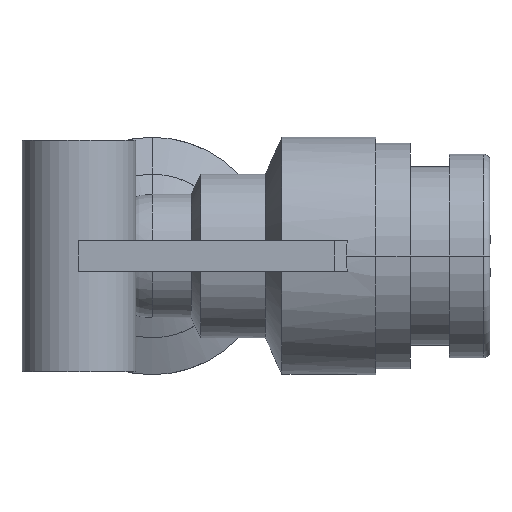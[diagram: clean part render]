
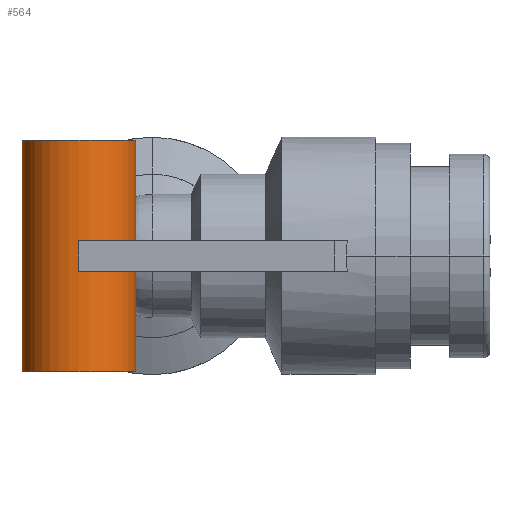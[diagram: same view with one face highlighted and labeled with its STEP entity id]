
A CAD part, front view. The second image highlights one B-rep face of the part: STEP entity #564.
In plain terms, the highlighted cylindrical face has radius 2.8 mm (diameter 5.6 mm), a partial arc.
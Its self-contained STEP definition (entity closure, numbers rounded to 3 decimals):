
#32 = EDGE_CURVE ( 'NONE', #477, #1821, #899, .T. ) ;
#36 = CIRCLE ( 'NONE', #163, 2.8 ) ;
#106 = DIRECTION ( 'NONE',  ( 0., 0., -1. ) ) ;
#113 = CARTESIAN_POINT ( 'NONE',  ( -2.8, 0., 0.75 ) ) ;
#156 = ORIENTED_EDGE ( 'NONE', *, *, #1350, .F. ) ;
#158 = DIRECTION ( 'NONE',  ( 0., 0., -1. ) ) ;
#163 = AXIS2_PLACEMENT_3D ( 'NONE', #1022, #302, #689 ) ;
#183 = DIRECTION ( 'NONE',  ( 0., 0., -1. ) ) ;
#189 = AXIS2_PLACEMENT_3D ( 'NONE', #838, #1371, #1321 ) ;
#236 = VECTOR ( 'NONE', #451, 1000. ) ;
#248 = DIRECTION ( 'NONE',  ( 0., 0., 1. ) ) ;
#255 = CARTESIAN_POINT ( 'NONE',  ( -2.8, 0., 0.75 ) ) ;
#266 = CARTESIAN_POINT ( 'NONE',  ( 0., 0., 0.75 ) ) ;
#286 = EDGE_CURVE ( 'NONE', #2318, #1367, #36, .T. ) ;
#302 = DIRECTION ( 'NONE',  ( 0., 0., 1. ) ) ;
#310 = ORIENTED_EDGE ( 'NONE', *, *, #2398, .T. ) ;
#350 = VECTOR ( 'NONE', #1099, 1000. ) ;
#372 = LINE ( 'NONE', #1253, #1180 ) ;
#380 = CARTESIAN_POINT ( 'NONE',  ( -2.8, 0., 5.7 ) ) ;
#385 = LINE ( 'NONE', #676, #350 ) ;
#392 = CIRCLE ( 'NONE', #1806, 2.8 ) ;
#393 = LINE ( 'NONE', #1284, #1974 ) ;
#450 = CARTESIAN_POINT ( 'NONE',  ( 2.8, 0., 5.7 ) ) ;
#451 = DIRECTION ( 'NONE',  ( 0., 0., -1. ) ) ;
#477 = VERTEX_POINT ( 'NONE', #2208 ) ;
#564 = ADVANCED_FACE ( 'NONE', ( #1124 ), #1898, .T. ) ;
#620 = EDGE_CURVE ( 'NONE', #2345, #1758, #1039, .T. ) ;
#675 = DIRECTION ( 'NONE',  ( 1., 0., 0. ) ) ;
#676 = CARTESIAN_POINT ( 'NONE',  ( 2.8, 0., 5.7 ) ) ;
#683 = ORIENTED_EDGE ( 'NONE', *, *, #791, .T. ) ;
#686 = AXIS2_PLACEMENT_3D ( 'NONE', #1313, #106, #1630 ) ;
#689 = DIRECTION ( 'NONE',  ( 1., 0., 0. ) ) ;
#773 = VECTOR ( 'NONE', #2122, 1000. ) ;
#791 = EDGE_CURVE ( 'NONE', #2318, #2345, #393, .T. ) ;
#798 = EDGE_CURVE ( 'NONE', #1367, #1821, #385, .T. ) ;
#830 = EDGE_CURVE ( 'NONE', #1697, #1616, #372, .T. ) ;
#838 = CARTESIAN_POINT ( 'NONE',  ( 0., 0., -5.7 ) ) ;
#844 = VECTOR ( 'NONE', #183, 1000. ) ;
#853 = LINE ( 'NONE', #380, #844 ) ;
#893 = CARTESIAN_POINT ( 'NONE',  ( 2.8, 0., 0.75 ) ) ;
#899 = CIRCLE ( 'NONE', #2248, 2.8 ) ;
#1011 = ORIENTED_EDGE ( 'NONE', *, *, #830, .F. ) ;
#1013 = CIRCLE ( 'NONE', #189, 2.8 ) ;
#1022 = CARTESIAN_POINT ( 'NONE',  ( 0., 0., 5.7 ) ) ;
#1039 = LINE ( 'NONE', #255, #236 ) ;
#1099 = DIRECTION ( 'NONE',  ( 0., 0., -1. ) ) ;
#1124 = FACE_OUTER_BOUND ( 'NONE', #1980, .T. ) ;
#1152 = ORIENTED_EDGE ( 'NONE', *, *, #620, .T. ) ;
#1180 = VECTOR ( 'NONE', #158, 1000. ) ;
#1213 = CARTESIAN_POINT ( 'NONE',  ( 0., 0., -0.75 ) ) ;
#1253 = CARTESIAN_POINT ( 'NONE',  ( 2.8, 0., 5.7 ) ) ;
#1284 = CARTESIAN_POINT ( 'NONE',  ( -2.8, 0., 5.7 ) ) ;
#1313 = CARTESIAN_POINT ( 'NONE',  ( 0., 0., 5.7 ) ) ;
#1321 = DIRECTION ( 'NONE',  ( 1., 0., 0. ) ) ;
#1349 = ORIENTED_EDGE ( 'NONE', *, *, #798, .F. ) ;
#1350 = EDGE_CURVE ( 'NONE', #477, #1877, #1648, .T. ) ;
#1367 = VERTEX_POINT ( 'NONE', #450 ) ;
#1371 = DIRECTION ( 'NONE',  ( 0., 0., 1. ) ) ;
#1483 = DIRECTION ( 'NONE',  ( 0., 0., -1. ) ) ;
#1508 = ORIENTED_EDGE ( 'NONE', *, *, #1703, .T. ) ;
#1616 = VERTEX_POINT ( 'NONE', #2151 ) ;
#1630 = DIRECTION ( 'NONE',  ( -1., 0., 0. ) ) ;
#1648 = LINE ( 'NONE', #1876, #773 ) ;
#1666 = VERTEX_POINT ( 'NONE', #2375 ) ;
#1697 = VERTEX_POINT ( 'NONE', #2423 ) ;
#1703 = EDGE_CURVE ( 'NONE', #1666, #1616, #1013, .T. ) ;
#1758 = VERTEX_POINT ( 'NONE', #2285 ) ;
#1774 = ORIENTED_EDGE ( 'NONE', *, *, #32, .T. ) ;
#1806 = AXIS2_PLACEMENT_3D ( 'NONE', #1213, #2187, #2171 ) ;
#1821 = VERTEX_POINT ( 'NONE', #893 ) ;
#1823 = CARTESIAN_POINT ( 'NONE',  ( -2.8, 0., 5.7 ) ) ;
#1876 = CARTESIAN_POINT ( 'NONE',  ( 0., -2.8, 0.75 ) ) ;
#1877 = VERTEX_POINT ( 'NONE', #2253 ) ;
#1898 = CYLINDRICAL_SURFACE ( 'NONE', #686, 2.8 ) ;
#1962 = ORIENTED_EDGE ( 'NONE', *, *, #2328, .F. ) ;
#1974 = VECTOR ( 'NONE', #1483, 1000. ) ;
#1980 = EDGE_LOOP ( 'NONE', ( #1349, #2282, #683, #1152, #310, #1508, #1011, #1962, #156, #1774 ) ) ;
#2122 = DIRECTION ( 'NONE',  ( 0., 0., -1. ) ) ;
#2151 = CARTESIAN_POINT ( 'NONE',  ( 2.8, 0., -5.7 ) ) ;
#2171 = DIRECTION ( 'NONE',  ( 1., 0., 0. ) ) ;
#2187 = DIRECTION ( 'NONE',  ( 0., 0., 1. ) ) ;
#2208 = CARTESIAN_POINT ( 'NONE',  ( 0., -2.8, 0.75 ) ) ;
#2248 = AXIS2_PLACEMENT_3D ( 'NONE', #266, #248, #675 ) ;
#2253 = CARTESIAN_POINT ( 'NONE',  ( 0., -2.8, -0.75 ) ) ;
#2282 = ORIENTED_EDGE ( 'NONE', *, *, #286, .F. ) ;
#2285 = CARTESIAN_POINT ( 'NONE',  ( -2.8, 0., -0.75 ) ) ;
#2318 = VERTEX_POINT ( 'NONE', #1823 ) ;
#2328 = EDGE_CURVE ( 'NONE', #1877, #1697, #392, .T. ) ;
#2345 = VERTEX_POINT ( 'NONE', #113 ) ;
#2375 = CARTESIAN_POINT ( 'NONE',  ( -2.8, 0., -5.7 ) ) ;
#2398 = EDGE_CURVE ( 'NONE', #1758, #1666, #853, .T. ) ;
#2423 = CARTESIAN_POINT ( 'NONE',  ( 2.8, 0., -0.75 ) ) ;
